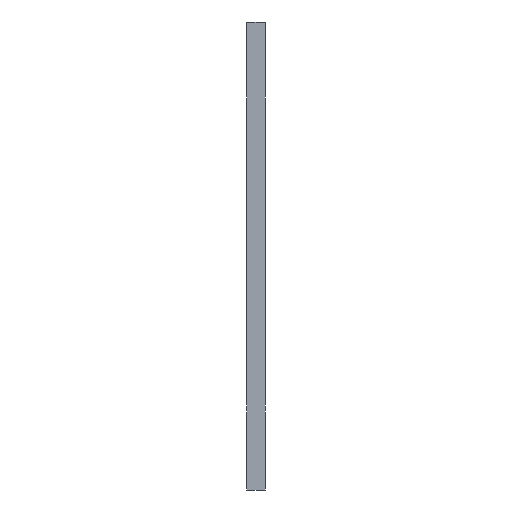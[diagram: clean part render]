
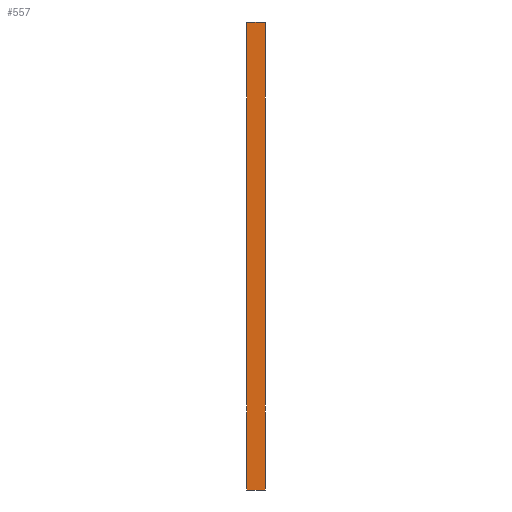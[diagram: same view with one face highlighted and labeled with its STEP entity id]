
A CAD part, left-side view. The second image highlights one B-rep face of the part: STEP entity #557.
In plain terms, the highlighted planar face has unit normal (-1, 0, 0).
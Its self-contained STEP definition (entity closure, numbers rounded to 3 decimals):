
#59 = DIRECTION ( 'NONE',  ( 1., 0., 0. ) ) ;
#175 = DIRECTION ( 'NONE',  ( 0., 0., -1. ) ) ;
#240 = LINE ( 'NONE', #1657, #771 ) ;
#316 = CARTESIAN_POINT ( 'NONE',  ( -40., -1., 50. ) ) ;
#318 = ORIENTED_EDGE ( 'NONE', *, *, #1227, .F. ) ;
#349 = VECTOR ( 'NONE', #738, 1000. ) ;
#376 = VECTOR ( 'NONE', #429, 1000. ) ;
#429 = DIRECTION ( 'NONE',  ( 0., 0., -1. ) ) ;
#470 = VERTEX_POINT ( 'NONE', #1379 ) ;
#557 = ADVANCED_FACE ( 'NONE', ( #1533 ), #1017, .F. ) ;
#580 = LINE ( 'NONE', #733, #349 ) ;
#600 = CARTESIAN_POINT ( 'NONE',  ( -40., -1., 0. ) ) ;
#719 = CARTESIAN_POINT ( 'NONE',  ( -40., -1., 50. ) ) ;
#733 = CARTESIAN_POINT ( 'NONE',  ( -40., 1., 50. ) ) ;
#738 = DIRECTION ( 'NONE',  ( 0., 0., -1. ) ) ;
#771 = VECTOR ( 'NONE', #925, 1000. ) ;
#829 = VERTEX_POINT ( 'NONE', #1293 ) ;
#903 = ORIENTED_EDGE ( 'NONE', *, *, #1012, .T. ) ;
#925 = DIRECTION ( 'NONE',  ( 0., -1., 0. ) ) ;
#1004 = LINE ( 'NONE', #600, #1689 ) ;
#1009 = EDGE_CURVE ( 'NONE', #470, #829, #1004, .T. ) ;
#1012 = EDGE_CURVE ( 'NONE', #1653, #470, #580, .T. ) ;
#1017 = PLANE ( 'NONE',  #1592 ) ;
#1034 = EDGE_LOOP ( 'NONE', ( #1618, #318, #1404, #903 ) ) ;
#1062 = CARTESIAN_POINT ( 'NONE',  ( -40., -1., 50. ) ) ;
#1126 = LINE ( 'NONE', #719, #376 ) ;
#1227 = EDGE_CURVE ( 'NONE', #1502, #829, #1126, .T. ) ;
#1293 = CARTESIAN_POINT ( 'NONE',  ( -40., -1., 0. ) ) ;
#1379 = CARTESIAN_POINT ( 'NONE',  ( -40., 1., 0. ) ) ;
#1404 = ORIENTED_EDGE ( 'NONE', *, *, #1528, .F. ) ;
#1415 = CARTESIAN_POINT ( 'NONE',  ( -40., 1., 50. ) ) ;
#1502 = VERTEX_POINT ( 'NONE', #1062 ) ;
#1528 = EDGE_CURVE ( 'NONE', #1653, #1502, #240, .T. ) ;
#1533 = FACE_OUTER_BOUND ( 'NONE', #1034, .T. ) ;
#1592 = AXIS2_PLACEMENT_3D ( 'NONE', #316, #59, #175 ) ;
#1618 = ORIENTED_EDGE ( 'NONE', *, *, #1009, .T. ) ;
#1653 = VERTEX_POINT ( 'NONE', #1415 ) ;
#1657 = CARTESIAN_POINT ( 'NONE',  ( -40., -1., 50. ) ) ;
#1689 = VECTOR ( 'NONE', #1758, 1000. ) ;
#1758 = DIRECTION ( 'NONE',  ( 0., -1., 0. ) ) ;
